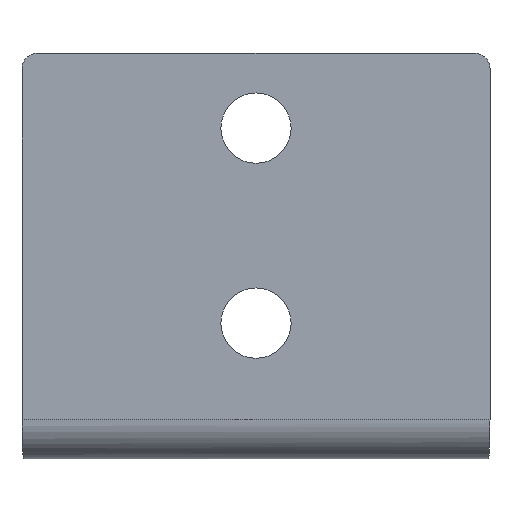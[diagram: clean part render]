
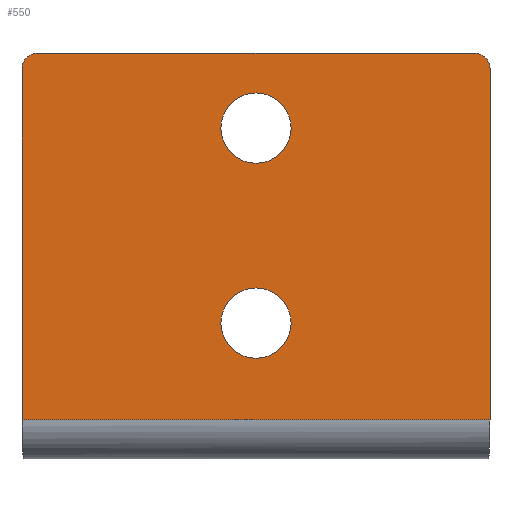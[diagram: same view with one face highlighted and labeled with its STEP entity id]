
A CAD part, front view. The second image highlights one B-rep face of the part: STEP entity #550.
In plain terms, the highlighted planar face has unit normal (0, -1, 0).
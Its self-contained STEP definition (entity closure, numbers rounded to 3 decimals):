
#5 = AXIS2_PLACEMENT_3D ( 'NONE', #462, #13, #533 ) ;
#7 = DIRECTION ( 'NONE',  ( 0., 1., 0. ) ) ;
#8 = VERTEX_POINT ( 'NONE', #442 ) ;
#13 = DIRECTION ( 'NONE',  ( 0., -1., 0. ) ) ;
#19 = CARTESIAN_POINT ( 'NONE',  ( 0., 0., 46.9 ) ) ;
#25 = EDGE_CURVE ( 'NONE', #8, #433, #26, .T. ) ;
#26 = LINE ( 'NONE', #227, #842 ) ;
#36 = AXIS2_PLACEMENT_3D ( 'NONE', #469, #926, #384 ) ;
#55 = DIRECTION ( 'NONE',  ( 0., 1., 0. ) ) ;
#58 = CARTESIAN_POINT ( 'NONE',  ( 0., 0., 17.4 ) ) ;
#61 = CARTESIAN_POINT ( 'NONE',  ( -28., 0., 52. ) ) ;
#63 = EDGE_CURVE ( 'NONE', #931, #802, #774, .T. ) ;
#93 = ORIENTED_EDGE ( 'NONE', *, *, #578, .T. ) ;
#97 = CIRCLE ( 'NONE', #851, 4.5 ) ;
#124 = ORIENTED_EDGE ( 'NONE', *, *, #845, .T. ) ;
#137 = ORIENTED_EDGE ( 'NONE', *, *, #25, .T. ) ;
#139 = DIRECTION ( 'NONE',  ( 0., 1., 0. ) ) ;
#154 = VECTOR ( 'NONE', #716, 1000. ) ;
#187 = AXIS2_PLACEMENT_3D ( 'NONE', #233, #7, #767 ) ;
#215 = EDGE_LOOP ( 'NONE', ( #803, #124, #478, #93, #137, #415 ) ) ;
#227 = CARTESIAN_POINT ( 'NONE',  ( -30., 0., 0. ) ) ;
#233 = CARTESIAN_POINT ( 'NONE',  ( 0., 0., 42.4 ) ) ;
#262 = LINE ( 'NONE', #791, #154 ) ;
#281 = DIRECTION ( 'NONE',  ( 0., 0., 1. ) ) ;
#286 = DIRECTION ( 'NONE',  ( 0., -1., 0. ) ) ;
#300 = AXIS2_PLACEMENT_3D ( 'NONE', #58, #506, #421 ) ;
#308 = CARTESIAN_POINT ( 'NONE',  ( 30., 0., 0. ) ) ;
#315 = VERTEX_POINT ( 'NONE', #335 ) ;
#316 = DIRECTION ( 'NONE',  ( 0., 0., -1. ) ) ;
#335 = CARTESIAN_POINT ( 'NONE',  ( 0., 0., 37.9 ) ) ;
#348 = CARTESIAN_POINT ( 'NONE',  ( 0., 0., 42.4 ) ) ;
#350 = FACE_OUTER_BOUND ( 'NONE', #215, .T. ) ;
#351 = DIRECTION ( 'NONE',  ( 0., 0., 1. ) ) ;
#363 = VECTOR ( 'NONE', #316, 1000. ) ;
#365 = CARTESIAN_POINT ( 'NONE',  ( 28., 0., 52. ) ) ;
#384 = DIRECTION ( 'NONE',  ( 0., 0., 1. ) ) ;
#391 = PLANE ( 'NONE',  #36 ) ;
#405 = VERTEX_POINT ( 'NONE', #365 ) ;
#415 = ORIENTED_EDGE ( 'NONE', *, *, #915, .F. ) ;
#421 = DIRECTION ( 'NONE',  ( 0., 0., 1. ) ) ;
#433 = VERTEX_POINT ( 'NONE', #902 ) ;
#434 = EDGE_CURVE ( 'NONE', #766, #871, #833, .T. ) ;
#442 = CARTESIAN_POINT ( 'NONE',  ( -30., 0., 50. ) ) ;
#443 = CARTESIAN_POINT ( 'NONE',  ( 0., 0., 12.9 ) ) ;
#462 = CARTESIAN_POINT ( 'NONE',  ( -28., 0., 50. ) ) ;
#469 = CARTESIAN_POINT ( 'NONE',  ( 30., 0., 0. ) ) ;
#478 = ORIENTED_EDGE ( 'NONE', *, *, #654, .T. ) ;
#506 = DIRECTION ( 'NONE',  ( 0., 1., 0. ) ) ;
#509 = CIRCLE ( 'NONE', #300, 4.5 ) ;
#511 = ORIENTED_EDGE ( 'NONE', *, *, #757, .T. ) ;
#516 = FACE_BOUND ( 'NONE', #909, .T. ) ;
#521 = CARTESIAN_POINT ( 'NONE',  ( 30., 0., 50. ) ) ;
#527 = VERTEX_POINT ( 'NONE', #19 ) ;
#528 = DIRECTION ( 'NONE',  ( 0., 0., 1. ) ) ;
#533 = DIRECTION ( 'NONE',  ( 0., 0., 1. ) ) ;
#550 = ADVANCED_FACE ( 'NONE', ( #516, #560, #350 ), #391, .F. ) ;
#560 = FACE_BOUND ( 'NONE', #592, .T. ) ;
#578 = EDGE_CURVE ( 'NONE', #827, #8, #895, .T. ) ;
#592 = EDGE_LOOP ( 'NONE', ( #856, #765 ) ) ;
#595 = VECTOR ( 'NONE', #978, 1000. ) ;
#612 = AXIS2_PLACEMENT_3D ( 'NONE', #828, #286, #281 ) ;
#619 = CIRCLE ( 'NONE', #187, 4.5 ) ;
#630 = CIRCLE ( 'NONE', #612, 2. ) ;
#647 = CARTESIAN_POINT ( 'NONE',  ( 30., 0., 5. ) ) ;
#654 = EDGE_CURVE ( 'NONE', #405, #827, #262, .T. ) ;
#675 = AXIS2_PLACEMENT_3D ( 'NONE', #898, #139, #528 ) ;
#716 = DIRECTION ( 'NONE',  ( -1., 0., 0. ) ) ;
#754 = ORIENTED_EDGE ( 'NONE', *, *, #975, .T. ) ;
#757 = EDGE_CURVE ( 'NONE', #315, #527, #97, .T. ) ;
#765 = ORIENTED_EDGE ( 'NONE', *, *, #798, .T. ) ;
#766 = VERTEX_POINT ( 'NONE', #891 ) ;
#767 = DIRECTION ( 'NONE',  ( 0., 0., 1. ) ) ;
#774 = LINE ( 'NONE', #308, #363 ) ;
#775 = LINE ( 'NONE', #980, #595 ) ;
#791 = CARTESIAN_POINT ( 'NONE',  ( 30., 0., 52. ) ) ;
#798 = EDGE_CURVE ( 'NONE', #871, #766, #509, .T. ) ;
#802 = VERTEX_POINT ( 'NONE', #647 ) ;
#803 = ORIENTED_EDGE ( 'NONE', *, *, #63, .F. ) ;
#827 = VERTEX_POINT ( 'NONE', #61 ) ;
#828 = CARTESIAN_POINT ( 'NONE',  ( 28., 0., 50. ) ) ;
#833 = CIRCLE ( 'NONE', #675, 4.5 ) ;
#842 = VECTOR ( 'NONE', #906, 1000. ) ;
#845 = EDGE_CURVE ( 'NONE', #931, #405, #630, .T. ) ;
#851 = AXIS2_PLACEMENT_3D ( 'NONE', #348, #55, #351 ) ;
#856 = ORIENTED_EDGE ( 'NONE', *, *, #434, .T. ) ;
#871 = VERTEX_POINT ( 'NONE', #443 ) ;
#891 = CARTESIAN_POINT ( 'NONE',  ( 0., 0., 21.9 ) ) ;
#895 = CIRCLE ( 'NONE', #5, 2. ) ;
#898 = CARTESIAN_POINT ( 'NONE',  ( 0., 0., 17.4 ) ) ;
#902 = CARTESIAN_POINT ( 'NONE',  ( -30., 0., 5. ) ) ;
#906 = DIRECTION ( 'NONE',  ( 0., 0., -1. ) ) ;
#909 = EDGE_LOOP ( 'NONE', ( #754, #511 ) ) ;
#915 = EDGE_CURVE ( 'NONE', #802, #433, #775, .T. ) ;
#926 = DIRECTION ( 'NONE',  ( 0., 1., 0. ) ) ;
#931 = VERTEX_POINT ( 'NONE', #521 ) ;
#975 = EDGE_CURVE ( 'NONE', #527, #315, #619, .T. ) ;
#978 = DIRECTION ( 'NONE',  ( -1., 0., 0. ) ) ;
#980 = CARTESIAN_POINT ( 'NONE',  ( 30., 0., 5. ) ) ;
